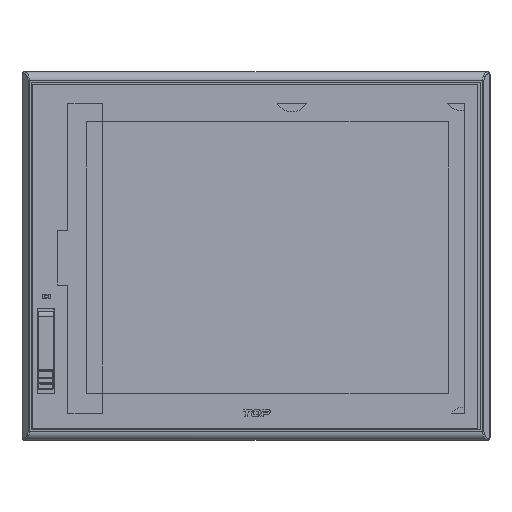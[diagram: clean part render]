
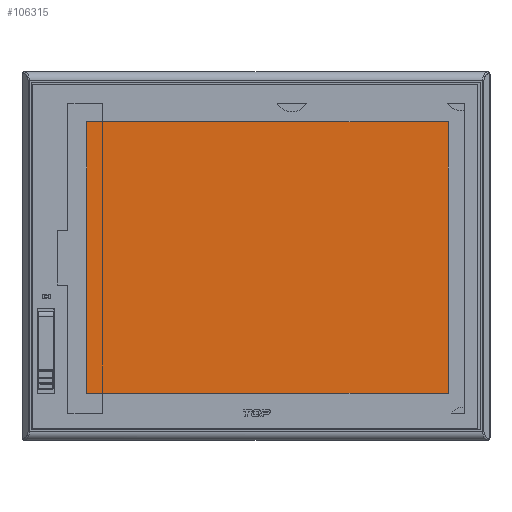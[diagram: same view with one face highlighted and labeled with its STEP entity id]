
A CAD part, top view. The second image highlights one B-rep face of the part: STEP entity #106315.
In plain terms, the highlighted planar face has unit normal (0, 0, 1).
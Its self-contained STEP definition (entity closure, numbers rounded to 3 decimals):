
#18302=DIRECTION('',(0.,-1.,0.));
#18303=VECTOR('',#18302,159.);
#18304=CARTESIAN_POINT('',(-99.05,78.5,-0.27));
#18305=LINE('',#18304,#18303);
#18306=DIRECTION('',(-1.,0.,0.));
#18307=VECTOR('',#18306,211.5);
#18308=CARTESIAN_POINT('',(112.45,78.5,-0.27));
#18309=LINE('',#18308,#18307);
#18310=DIRECTION('',(0.,1.,0.));
#18311=VECTOR('',#18310,159.);
#18312=CARTESIAN_POINT('',(112.45,-80.5,-0.27));
#18313=LINE('',#18312,#18311);
#18314=DIRECTION('',(1.,0.,0.));
#18315=VECTOR('',#18314,211.5);
#18316=CARTESIAN_POINT('',(-99.05,-80.5,-0.27));
#18317=LINE('',#18316,#18315);
#66131=CARTESIAN_POINT('',(-99.05,78.5,-0.27));
#66132=CARTESIAN_POINT('',(-99.05,-80.5,-0.27));
#66133=VERTEX_POINT('',#66131);
#66134=VERTEX_POINT('',#66132);
#66135=CARTESIAN_POINT('',(112.45,-80.5,-0.27));
#66136=VERTEX_POINT('',#66135);
#66137=CARTESIAN_POINT('',(112.45,78.5,-0.27));
#66138=VERTEX_POINT('',#66137);
#106304=CARTESIAN_POINT('',(0.,0.,-0.27));
#106305=DIRECTION('',(0.,0.,1.));
#106306=DIRECTION('',(1.,0.,0.));
#106307=AXIS2_PLACEMENT_3D('',#106304,#106305,#106306);
#106308=PLANE('',#106307);
#106309=ORIENTED_EDGE('',*,*,#106256,.F.);
#106310=ORIENTED_EDGE('',*,*,#106271,.F.);
#106311=ORIENTED_EDGE('',*,*,#106285,.F.);
#106312=ORIENTED_EDGE('',*,*,#106298,.F.);
#106313=EDGE_LOOP('',(#106309,#106310,#106311,#106312));
#106314=FACE_OUTER_BOUND('',#106313,.F.);
#106315=ADVANCED_FACE('',(#106314),#106308,.T.);
#106256=EDGE_CURVE('',#66133,#66134,#18305,.T.);
#106271=EDGE_CURVE('',#66138,#66133,#18309,.T.);
#106285=EDGE_CURVE('',#66136,#66138,#18313,.T.);
#106298=EDGE_CURVE('',#66134,#66136,#18317,.T.);
